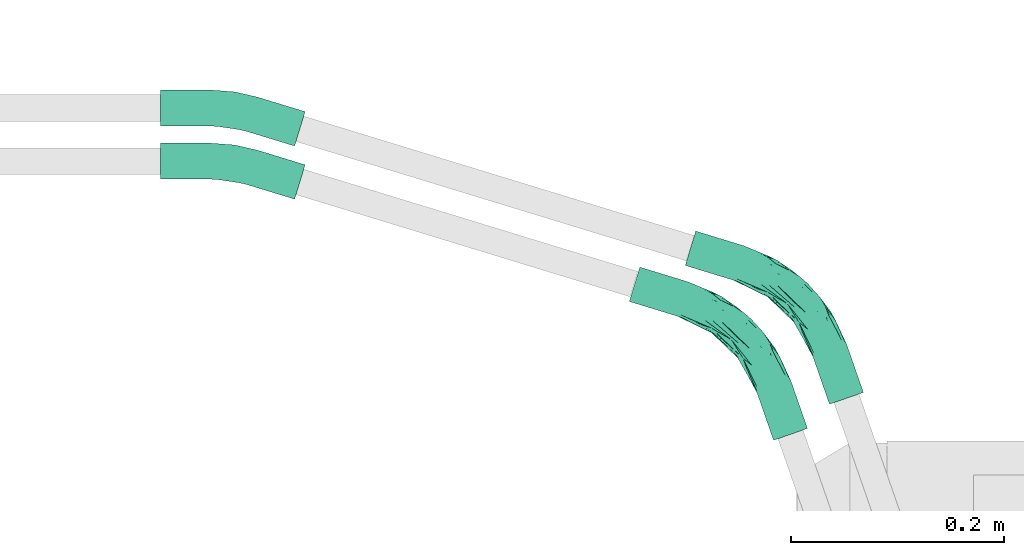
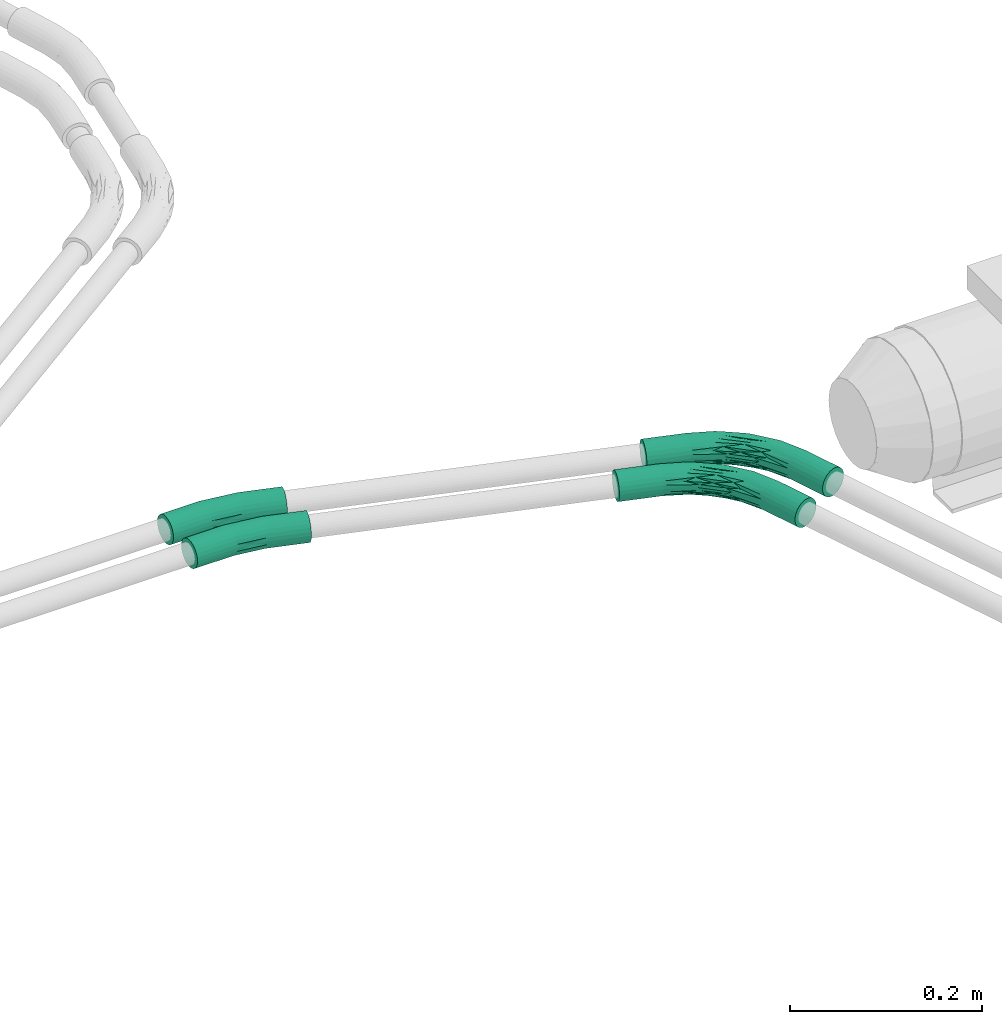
# One storey, part 13 of 22: 4 flow fittings.
"""IFC2X3 building model written with IfcOpenShell, lengths in millimetres."""

from ifc_helpers import new_model, entity, si_unit, converted_unit, derived_unit, direction, frame, origin_with_axes, place, context, subcontext, project, spatial, open_shell, surface_model, source, transform, mapped, type_object, element, save


model = new_model("IFC2X3")

# Units and contexts
model_context = context("Model", 3, precision=0.01, world=frame((0.0, 4.29681676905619e-09, 0.0)), true_north=direction((4.01073788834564e-13, 1.0)))
plan_context = context("Plan", 3, precision=0.01, world=frame((0.0, 4.29681676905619e-09, 0.0)), true_north=direction((4.01073788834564e-13, 1.0)))
body_context = subcontext(model_context, "Body", "Model", "MODEL_VIEW")
ifc_project = project(units=[converted_unit("PLANEANGLEUNIT", "DEGREE", entity("IfcPositiveLengthMeasure", 0.0174532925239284), si_unit("PLANEANGLEUNIT", "RADIAN"), dimensions=[0, 0, 0, 0, 0, 0, 0]), si_unit("AREAUNIT", "SQUARE_METRE"), si_unit("LENGTHUNIT", "METRE", prefix="MILLI"), si_unit("MASSUNIT", "GRAM", prefix="KILO"), si_unit("POWERUNIT", "WATT"), si_unit("PRESSUREUNIT", "PASCAL", prefix="KILO"), si_unit("FORCEUNIT", "NEWTON", prefix="KILO"), si_unit("ELECTRICVOLTAGEUNIT", "VOLT"), si_unit("ELECTRICCURRENTUNIT", "AMPERE"), si_unit("THERMODYNAMICTEMPERATUREUNIT", "DEGREE_CELSIUS"), si_unit("TIMEUNIT", "SECOND"), si_unit("VOLUMEUNIT", "CUBIC_METRE"), derived_unit("LINEARVELOCITYUNIT", [(si_unit("LENGTHUNIT", "METRE"), 1), (si_unit("TIMEUNIT", "SECOND"), -1)]), derived_unit("VOLUMETRICFLOWRATEUNIT", [(si_unit("VOLUMEUNIT", "CUBIC_METRE"), 1), (si_unit("TIMEUNIT", "SECOND"), -1)]), derived_unit("THERMALTRANSMITTANCEUNIT", [(si_unit("POWERUNIT", "WATT"), 1), (si_unit("THERMODYNAMICTEMPERATUREUNIT", "KELVIN"), -1), (si_unit("AREAUNIT", "SQUARE_METRE"), -1)]), derived_unit("SOUNDPRESSUREUNIT", [(si_unit("PRESSUREUNIT", "PASCAL"), 1)])], contexts=[model_context, plan_context])

# Site, building, storey
site_placement = place(None, frame((0.0, -4.29681676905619e-09, 0.0), z_axis=(0.0, 0.0, 1.0), x_axis=(1.0, 0.0, 0.0)))
site = spatial("IfcSite", under=ifc_project, at=site_placement, Name="ENGM", CompositionType="ELEMENT")
building_placement = place(site_placement, frame((0.0, 4.29681676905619e-09, 0.0), z_axis=(0.0, 0.0, 1.0), x_axis=(1.0, 0.0, 0.0)))
building = spatial("IfcBuilding", under=site, at=building_placement, Name="TI", CompositionType="ELEMENT")
storey_placement = place(building_placement, frame((0.0, 0.0, 210900.0), z_axis=(0.0, 0.0, 1.0), x_axis=(1.0, 0.0, 0.0)))
storey = spatial("IfcBuildingStorey", under=building, at=storey_placement, Name="Nivå F", CompositionType="ELEMENT", Elevation=210900.0)

# Flow fittings
cable_carrier_fitting_type = type_object("IfcCableCarrierFittingType", Name="Trekkerør, glatt bend", PredefinedType="BEND")
shared_shape_1 = source(origin_with_axes(), body_context, "Body", "SurfaceModel", [
    surface_model("IfcShellBasedSurfaceModel", [(-67.01386, 8.46055, -14.6541), (-67.01386, 4.3795, -16.34452), (-67.01386, 0.0, -16.92109), (-67.01386, 14.6541, -8.46055), (-67.01386, -8.46055, -14.6541), (-67.01386, 11.96502, -11.96502), (-67.01386, -16.92109, 0.0), (-67.01386, -16.34452, 4.3795), (-67.01386, -11.96502, -11.96502), (-67.01386, -14.6541, -8.46055), (-67.01386, -4.3795, -16.34452), (-67.01386, -16.34452, -4.3795), (-67.01386, 16.92109, 0.0), (-67.01386, 16.34452, -4.3795), (-67.01386, 16.34452, 4.3795), (-67.01386, 14.6541, 8.46055), (-67.01386, 8.46055, 14.6541), (-67.01386, 11.96502, 11.96502), (-67.01386, 0.0, 16.92109), (-67.01386, 4.3795, 16.34452), (-67.01386, -11.96502, 11.96502), (-67.01386, -8.46055, 14.6541), (-67.01386, -14.6541, 8.46055), (-67.01386, -4.3795, 16.34452), (-19.69589, -16.92109, 0.0), (-19.69589, -16.34452, 4.3795), (-19.69589, -14.6541, 8.46055), (-19.69589, -11.96502, 11.96502), (-19.69589, -8.46055, 14.6541), (-19.69589, -4.3795, 16.34452), (-19.69589, 0.0, 16.92109), (-19.69589, 4.3795, 16.34452), (-19.69589, 8.46055, 14.6541), (-19.69589, 11.96502, 11.96502), (-19.69589, 14.6541, 8.46055), (-19.69589, 16.34452, 4.3795), (-19.69589, 16.92109, 0.0), (-19.69589, 16.34452, -4.3795), (-19.69589, 14.6541, -8.46055), (-19.69589, 11.96502, -11.96502), (-19.69589, 8.46055, -14.6541), (-19.69589, 4.3795, -16.34452), (-19.69589, 0.0, -16.92109), (-19.69589, -4.3795, -16.34452), (-19.69589, -8.46055, -14.6541), (-19.69589, -11.96502, -11.96502), (-19.69589, -14.6541, -8.46055), (-19.69589, -16.34452, -4.3795), (22.33351, -5.68368, 11.96502), (21.3089, -2.33234, 14.6541), (20.11572, 1.57038, 16.34452), (18.83527, 5.75852, 16.92109), (17.55483, 9.94666, 16.34452), (23.11972, -8.25526, 8.46055), (14.55083, 19.7723, 8.46055), (15.33704, 17.20073, 11.96502), (-2.71744, 18.18281, 0.0), (14.0566, 21.38887, 4.3795), (16.36165, 13.84938, 14.6541), (2.28475, -15.28765, 0.0), (23.61395, -9.87182, 4.3795), (23.78252, -10.4232, 0.0), (13.88803, 21.94024, 0.0), (20.11572, 1.57038, -16.34452), (18.83527, 5.75852, -16.92109), (14.0566, 21.38887, -4.3795), (16.36165, 13.84938, -14.6541), (17.55483, 9.94666, -16.34452), (15.33704, 17.20073, -11.96502), (23.61395, -9.87182, -4.3795), (22.33351, -5.68368, -11.96502), (23.11972, -8.25526, -8.46055), (21.3089, -2.33234, -14.6541), (14.55083, 19.7723, -8.46055), (62.80523, 23.7811, -16.34452), (67.58391, 8.15075, -11.96502), (64.08567, 19.59296, -16.92109), (59.80123, 33.60674, -8.46055), (61.61205, 27.68382, -14.6541), (60.58744, 31.03516, -11.96502), (68.86435, 3.96261, 4.3795), (69.03292, 3.41123, 0.0), (65.36611, 15.40482, -16.34452), (66.5593, 11.50209, -14.6541), (68.86435, 3.96261, -4.3795), (68.37011, 5.57917, -8.46055), (59.30699, 35.2233, -4.3795), (60.58744, 31.03516, 11.96502), (59.13842, 35.77468, 0.0), (59.30699, 35.2233, 4.3795), (59.80123, 33.60674, 8.46055), (61.61205, 27.68382, 14.6541), (67.58391, 8.15075, 11.96502), (64.08567, 19.59296, 16.92109), (62.80523, 23.7811, 16.34452), (68.37011, 5.57917, 8.46055), (66.5593, 11.50209, 14.6541), (65.36611, 15.40482, 16.34452)], [open_shell([[[0, 1, 2]], [[3, 0, 2]], [[4, 3, 2]], [[5, 0, 3]], [[3, 6, 7]], [[8, 9, 4]], [[2, 10, 4]], [[9, 11, 4]], [[11, 3, 4]], [[3, 11, 6]], [[12, 13, 3]], [[12, 7, 14]], [[14, 7, 15]], [[16, 17, 18]], [[15, 18, 17]], [[18, 19, 16]], [[20, 21, 22]], [[15, 7, 22]], [[23, 18, 21]], [[15, 22, 21]], [[15, 21, 18]], [[3, 7, 12]], [[7, 24, 25]], [[26, 22, 25]], [[21, 27, 28]], [[26, 27, 20]], [[23, 28, 29]], [[24, 7, 6]], [[25, 22, 7]], [[26, 20, 22]], [[27, 21, 20]], [[23, 21, 28]], [[29, 18, 23]], [[29, 30, 18]], [[16, 31, 32]], [[33, 17, 32]], [[14, 34, 35]], [[33, 34, 15]], [[12, 35, 36]], [[31, 19, 30]], [[31, 16, 19]], [[30, 19, 18]], [[32, 17, 16]], [[33, 15, 17]], [[14, 15, 34]], [[35, 12, 14]], [[13, 36, 37]], [[38, 3, 37]], [[0, 39, 40]], [[38, 39, 5]], [[1, 40, 41]], [[36, 13, 12]], [[37, 3, 13]], [[38, 5, 3]], [[39, 0, 5]], [[1, 0, 40]], [[41, 2, 1]], [[41, 42, 2]], [[4, 43, 44]], [[45, 8, 44]], [[11, 46, 47]], [[45, 46, 9]], [[6, 47, 24]], [[43, 10, 42]], [[43, 4, 10]], [[42, 10, 2]], [[44, 8, 4]], [[45, 9, 8]], [[11, 9, 46]], [[47, 6, 11]], [[27, 26, 48]], [[49, 28, 27]], [[50, 29, 28]], [[51, 30, 29]], [[31, 30, 52]], [[25, 53, 26]], [[34, 33, 54]], [[32, 55, 33]], [[56, 35, 57]], [[56, 36, 35]], [[57, 35, 34]], [[58, 32, 31]], [[25, 24, 59]], [[49, 50, 28]], [[27, 48, 49]], [[50, 51, 29]], [[53, 25, 60]], [[26, 53, 48]], [[59, 61, 60]], [[54, 57, 34]], [[62, 56, 57]], [[58, 31, 52]], [[32, 58, 55]], [[54, 33, 55]], [[52, 30, 51]], [[25, 59, 60]], [[43, 42, 63]], [[42, 41, 64]], [[65, 38, 37]], [[39, 66, 40]], [[41, 40, 67]], [[38, 68, 39]], [[59, 24, 47]], [[69, 59, 47]], [[70, 45, 44]], [[47, 46, 69]], [[45, 71, 46]], [[72, 44, 43]], [[37, 36, 56]], [[56, 62, 65]], [[65, 73, 38]], [[66, 39, 68]], [[40, 66, 67]], [[73, 68, 38]], [[67, 64, 41]], [[72, 43, 63]], [[70, 44, 72]], [[46, 71, 69]], [[69, 61, 59]], [[71, 45, 70]], [[64, 63, 42]], [[37, 56, 65]], [[74, 75, 76]], [[77, 74, 78]], [[75, 74, 77]], [[77, 78, 79]], [[80, 81, 77]], [[82, 75, 83]], [[82, 76, 75]], [[75, 84, 85]], [[84, 75, 81]], [[77, 81, 75]], [[77, 86, 80]], [[87, 88, 89]], [[87, 89, 90]], [[88, 91, 92]], [[91, 88, 87]], [[93, 91, 94]], [[80, 92, 95]], [[86, 92, 80]], [[96, 93, 97]], [[93, 96, 92]], [[91, 93, 92]], [[92, 86, 88]], [[60, 81, 80]], [[95, 53, 80]], [[49, 92, 96]], [[95, 92, 48]], [[50, 96, 97]], [[81, 60, 61]], [[80, 53, 60]], [[95, 48, 53]], [[92, 49, 48]], [[50, 49, 96]], [[97, 51, 50]], [[97, 93, 51]], [[58, 94, 91]], [[87, 55, 91]], [[57, 90, 89]], [[87, 90, 54]], [[62, 89, 88]], [[94, 52, 93]], [[94, 58, 52]], [[93, 52, 51]], [[91, 55, 58]], [[87, 54, 55]], [[57, 54, 90]], [[89, 62, 57]], [[62, 88, 86]], [[77, 65, 86]], [[78, 74, 67]], [[79, 78, 68]], [[73, 77, 79]], [[77, 73, 65]], [[65, 62, 86]], [[68, 78, 66]], [[66, 78, 67]], [[74, 64, 67]], [[68, 73, 79]], [[74, 76, 64]], [[72, 82, 83]], [[75, 70, 83]], [[69, 85, 84]], [[75, 85, 71]], [[61, 84, 81]], [[82, 63, 76]], [[82, 72, 63]], [[76, 63, 64]], [[83, 70, 72]], [[75, 71, 70]], [[69, 71, 85]], [[84, 61, 69]]])]),
])
for number, where, z_axis, x_axis, name in (
    (1, (600693.97096, 571094.62419, -56.7999999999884), (0.0, 0.0, 1.0), (-0.956304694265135, 0.292371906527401, 0.0), "Trekkerør, glatt bend"),
    (2, (600693.97096, 571044.62419, -56.7999999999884), (0.0, 0.0, 1.0), (-0.956304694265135, 0.292371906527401, 0.0), "Trekkerør, glatt bend"),
):
    element("IfcFlowFitting", number, at=place(storey_placement, frame(where, z_axis=z_axis, x_axis=x_axis)), inside=storey, type_object=cable_carrier_fitting_type, Name=name, context=body_context, shape_type="MappedRepresentation", body=[
        mapped(shared_shape_1, transform((0.0, 0.0, 0.0), scale=1.0)),
    ])
shared_shape_2 = source(origin_with_axes(), body_context, "Body", "SurfaceModel", [
    surface_model("IfcShellBasedSurfaceModel", [(-114.18104, 8.46055, -14.6541), (-114.18104, 4.3795, -16.34452), (-114.18104, 0.0, -16.92109), (-114.18104, -4.3795, -16.34452), (-114.18104, -8.46055, -14.6541), (-114.18104, -14.6541, -8.46055), (-114.18104, 16.92109, 0.0), (-114.18104, -11.96502, -11.96502), (-114.18104, -11.96502, 11.96502), (-114.18104, 14.6541, -8.46055), (-114.18104, 11.96502, -11.96502), (-114.18104, 16.34452, -4.3795), (-114.18104, -16.34452, -4.3795), (-114.18104, -16.92109, 0.0), (-114.18104, -16.34452, 4.3795), (-114.18104, -14.6541, 8.46055), (-114.18104, 0.0, 16.92109), (-114.18104, -8.46055, 14.6541), (-114.18104, -4.3795, 16.34452), (-114.18104, 14.6541, 8.46055), (-114.18104, 8.46055, 14.6541), (-114.18104, 11.96502, 11.96502), (-114.18104, 16.34452, 4.3795), (-114.18104, 4.3795, 16.34452), (-66.86307, 16.34452, 4.3795), (-66.86307, 16.92109, 0.0), (-66.86307, 14.6541, 8.46055), (-66.86307, 8.46055, 14.6541), (-66.86307, 11.96502, 11.96502), (-66.86307, 4.3795, 16.34452), (-66.86307, 0.0, 16.92109), (-66.86307, -8.46055, 14.6541), (-66.86307, -4.3795, 16.34452), (-66.86307, -11.96502, 11.96502), (-66.86307, -16.34452, 4.3795), (-66.86307, -14.6541, 8.46055), (-66.86307, -16.92109, 0.0), (-66.86307, -16.34452, -4.3795), (-66.86307, -14.6541, -8.46055), (-66.86307, -8.46055, -14.6541), (-66.86307, -11.96502, -11.96502), (-66.86307, -4.3795, -16.34452), (-66.86307, 0.0, -16.92109), (-66.86307, 8.46055, -14.6541), (-66.86307, 4.3795, -16.34452), (-66.86307, 11.96502, -11.96502), (-66.86307, 16.34452, -4.3795), (-66.86307, 14.6541, -8.46055), (-32.27242, 12.84216, 0.0), (-35.42196, 13.15403, 3.63992), (-7.95797, 4.42749, 3.1862), (21.78288, -31.11607, 16.75716), (39.48772, -53.9573, 16.92109), (43.0219, -51.37087, 16.34452), (-28.2681, 1.16114, 15.55965), (-32.48914, 9.40106, 10.16826), (-36.24238, 7.08238, 13.33358), (-43.40125, 13.61824, 6.79025), (-33.3333, -18.16273, 10.43706), (-4.61214, -9.09061, 15.89686), (-37.97456, -0.798, 16.75716), (13.72034, -40.73345, 13.50422), (29.83216, -61.02355, 11.96502), (32.66021, -58.95389, 14.6541), (11.07823, -28.03505, 16.79998), (-29.16631, -7.61689, 16.79998), (-9.40332, -18.53411, 16.22846), (-36.81854, -9.98559, 15.69055), (15.53221, -8.29758, 2.92209), (29.42271, -18.45899, 0.0), (0.42066, 0.82913, 0.0), (-40.97407, -12.98412, 13.50422), (28.60105, -22.24115, 10.17752), (49.14327, -46.89105, 11.96502), (51.31331, -45.30294, 8.46055), (-43.67359, -17.90107, 6.63933), (-16.70811, -26.90629, 6.71647), (35.95354, -56.54373, 16.34452), (13.68595, -35.60915, 15.69055), (-29.39279, -22.78636, 3.63614), (27.26363, -25.19258, 13.33415), (-4.16877, -35.06109, 3.66136), (27.66212, -62.61165, 8.46055), (9.20666, -43.94014, 6.59732), (26.29798, -63.60998, 4.3795), (17.63148, -22.12611, 15.55965), (46.31523, -48.9607, 14.6541), (22.76936, -14.64862, 6.28703), (36.27692, -25.07799, 3.1792), (52.67745, -44.30462, 4.3795), (2.86445, -3.39946, 9.02542), (53.14274, -43.96411, 0.0), (-2.4602, -4.84909, 13.22646), (-11.7917, -23.24165, 13.59813), (3.5245, -36.48876, 10.44458), (0.44002, -38.70356, 0.0), (25.8327, -63.95049, 0.0), (-31.49295, -22.5023, 0.0), (-6.09794, -12.01915, 16.73333), (-17.17436, 7.10447, 6.24887), (-4.44654, -24.36305, 15.14505), (-31.04354, -11.52814, -15.70174), (-16.70811, -26.90629, -6.71647), (3.5245, -36.48876, -10.44458), (9.20666, -43.94014, -6.59732), (29.00466, -22.59625, -10.17958), (-1.07229, -2.11351, -10.03898), (15.35976, -8.89418, -5.28368), (-40.97407, -12.98412, -13.50422), (-29.39279, -22.78636, -3.63614), (29.83216, -61.02355, -11.96502), (27.66212, -62.61165, -8.46055), (-4.16877, -35.06109, -3.66136), (-27.48572, 4.89323, -13.30679), (-33.3333, -18.16273, -10.43706), (-43.67359, -17.90107, -6.63933), (-11.7917, -23.24165, -13.59813), (-39.02557, -5.09311, -16.79389), (-35.36422, 10.06144, -10.17958), (-26.5563, 10.09311, -6.29304), (-41.67473, 14.46692, -3.17756), (36.78908, -26.89793, -6.37043), (51.31331, -45.30294, -8.46055), (-36.95798, 3.34037, -15.57665), (-8.09915, -15.96357, -16.81304), (9.03056, -31.85982, -15.70174), (-29.17558, -3.00766, -16.75093), (35.95354, -56.54373, -16.34452), (32.66021, -58.95389, -14.6541), (18.93752, -34.5008, -16.79389), (26.29798, -63.60998, -4.3795), (14.80326, -25.32043, -16.75093), (43.0219, -51.37087, -16.34452), (39.48772, -53.9573, -16.92109), (49.14327, -46.89105, -11.96502), (46.31523, -48.9607, -14.6541), (20.18115, -19.29066, -13.30679), (13.72034, -40.73345, -13.50422), (24.52211, -27.85168, -15.57665), (-4.17447, -8.22795, -15.50993), (-6.60087, -13.01042, -16.86289), (-2.8082, -5.53501, -13.80517), (52.67745, -44.30462, -4.3795), (-15.87372, 7.6289, -2.95781), (36.50825, -25.29169, -3.14006), (60.60506, -97.13865, -14.6541), (63.89839, -94.72848, -16.34452), (67.43257, -92.14205, -16.92109), (57.77701, -99.20831, -11.96502), (81.08759, -82.14886, 0.0), (55.60698, -100.79641, -8.46055), (60.60506, -97.13865, 14.6541), (77.08813, -85.0758, -11.96502), (79.25816, -83.48769, -8.46055), (74.26008, -87.14545, -14.6541), (70.96675, -89.55563, -16.34452), (80.6223, -82.48937, -4.3795), (53.77755, -102.13524, 0.0), (54.24283, -101.79473, -4.3795), (55.60698, -100.79641, 8.46055), (54.24283, -101.79473, 4.3795), (57.77701, -99.20831, 11.96502), (79.25816, -83.48769, 8.46055), (63.89839, -94.72848, 16.34452), (77.08813, -85.0758, 11.96502), (74.26008, -87.14545, 14.6541), (80.6223, -82.48937, 4.3795), (70.96675, -89.55563, 16.34452), (67.43257, -92.14205, 16.92109)], [open_shell([[[0, 1, 2]], [[2, 3, 4]], [[2, 4, 5]], [[2, 5, 6]], [[5, 4, 7]], [[8, 6, 5]], [[0, 9, 10]], [[0, 11, 9]], [[0, 2, 11]], [[6, 11, 2]], [[5, 12, 8]], [[13, 14, 15]], [[13, 15, 8]], [[16, 6, 17]], [[6, 8, 17]], [[16, 17, 18]], [[19, 20, 21]], [[19, 22, 6]], [[20, 16, 23]], [[20, 19, 6]], [[20, 6, 16]], [[12, 13, 8]], [[24, 25, 22]], [[24, 19, 26]], [[27, 28, 20]], [[21, 28, 26]], [[29, 27, 23]], [[6, 22, 25]], [[22, 19, 24]], [[19, 21, 26]], [[21, 20, 28]], [[27, 20, 23]], [[23, 16, 29]], [[16, 30, 29]], [[31, 32, 17]], [[31, 8, 33]], [[34, 35, 14]], [[15, 35, 33]], [[36, 34, 13]], [[30, 18, 32]], [[18, 17, 32]], [[16, 18, 30]], [[17, 8, 31]], [[8, 15, 33]], [[35, 15, 14]], [[14, 13, 34]], [[37, 36, 12]], [[37, 5, 38]], [[39, 40, 4]], [[7, 40, 38]], [[41, 39, 3]], [[13, 12, 36]], [[12, 5, 37]], [[5, 7, 38]], [[7, 4, 40]], [[39, 4, 3]], [[3, 2, 41]], [[2, 42, 41]], [[43, 44, 0]], [[43, 10, 45]], [[46, 47, 11]], [[9, 47, 45]], [[25, 46, 6]], [[42, 1, 44]], [[1, 0, 44]], [[2, 1, 42]], [[0, 10, 43]], [[10, 9, 45]], [[47, 9, 11]], [[11, 6, 46]], [[48, 49, 50]], [[48, 25, 49]], [[51, 52, 53]], [[54, 27, 29]], [[55, 28, 56]], [[57, 49, 24]], [[58, 33, 35]], [[59, 54, 60]], [[29, 30, 60]], [[61, 62, 63]], [[64, 65, 66]], [[65, 32, 67]], [[68, 69, 70]], [[71, 31, 33]], [[72, 73, 74]], [[75, 76, 58]], [[30, 32, 65]], [[28, 55, 26]], [[63, 77, 78]], [[75, 79, 76]], [[73, 72, 80]], [[79, 34, 36]], [[76, 79, 81]], [[67, 32, 31]], [[30, 65, 60]], [[68, 70, 50]], [[50, 70, 48]], [[82, 83, 84]], [[51, 53, 85]], [[63, 78, 61]], [[33, 58, 71]], [[53, 86, 85]], [[68, 87, 88]], [[77, 52, 64]], [[86, 73, 80]], [[89, 87, 74]], [[72, 87, 90]], [[74, 87, 72]], [[27, 56, 28]], [[88, 89, 91]], [[55, 92, 90]], [[93, 58, 94]], [[27, 54, 56]], [[83, 76, 81]], [[55, 57, 26]], [[84, 95, 96]], [[66, 78, 64]], [[79, 97, 81]], [[82, 94, 83]], [[94, 82, 62]], [[60, 98, 59]], [[93, 94, 61]], [[92, 85, 80]], [[64, 78, 77]], [[51, 98, 64]], [[85, 92, 59]], [[76, 94, 58]], [[90, 87, 99]], [[100, 66, 67]], [[65, 64, 98]], [[93, 67, 71]], [[56, 92, 55]], [[92, 56, 54]], [[86, 80, 85]], [[80, 72, 92]], [[29, 60, 54]], [[98, 60, 65]], [[52, 51, 64]], [[59, 98, 51]], [[95, 84, 81]], [[76, 83, 94]], [[31, 71, 67]], [[93, 71, 58]], [[62, 61, 94]], [[100, 93, 61]], [[72, 90, 92]], [[90, 99, 55]], [[83, 81, 84]], [[95, 81, 97]], [[97, 79, 36]], [[35, 34, 75]], [[79, 75, 34]], [[35, 75, 58]], [[78, 66, 100]], [[66, 65, 67]], [[69, 68, 88]], [[99, 87, 50]], [[69, 88, 91]], [[89, 88, 87]], [[68, 50, 87]], [[49, 99, 50]], [[99, 49, 57]], [[24, 49, 25]], [[99, 57, 55]], [[26, 57, 24]], [[54, 59, 92]], [[85, 59, 51]], [[78, 100, 61]], [[93, 100, 67]], [[39, 41, 101]], [[102, 103, 104]], [[105, 106, 107]], [[39, 108, 40]], [[36, 109, 97]], [[110, 111, 103]], [[109, 112, 97]], [[113, 43, 45]], [[38, 40, 114]], [[38, 114, 115]], [[116, 103, 114]], [[117, 41, 42]], [[118, 47, 119]], [[102, 114, 103]], [[120, 46, 25]], [[121, 122, 105]], [[47, 46, 119]], [[116, 114, 108]], [[44, 43, 123]], [[124, 125, 101]], [[45, 118, 113]], [[113, 123, 43]], [[126, 42, 44]], [[116, 101, 125]], [[124, 101, 117]], [[125, 127, 128]], [[112, 95, 97]], [[127, 125, 129]], [[130, 96, 95]], [[131, 132, 133]], [[130, 104, 111]], [[134, 135, 136]], [[39, 101, 108]], [[137, 110, 103]], [[137, 116, 125]], [[104, 130, 112]], [[129, 133, 127]], [[132, 131, 138]], [[126, 139, 140]], [[110, 137, 128]], [[129, 124, 140]], [[129, 140, 131]], [[136, 138, 139]], [[139, 141, 136]], [[122, 121, 142]], [[48, 70, 143]], [[105, 134, 136]], [[138, 135, 132]], [[107, 70, 69]], [[122, 134, 105]], [[91, 144, 69]], [[119, 107, 106]], [[143, 70, 107]], [[143, 119, 120]], [[113, 106, 141]], [[42, 126, 117]], [[47, 118, 45]], [[109, 37, 115]], [[139, 126, 123]], [[144, 121, 107]], [[105, 136, 106]], [[118, 106, 113]], [[106, 118, 119]], [[44, 123, 126]], [[139, 123, 113]], [[135, 138, 136]], [[139, 138, 131]], [[41, 117, 101]], [[140, 124, 117]], [[133, 129, 131]], [[124, 129, 125]], [[111, 104, 103]], [[102, 104, 112]], [[40, 108, 114]], [[116, 108, 101]], [[128, 137, 125]], [[116, 137, 103]], [[109, 102, 112]], [[95, 112, 130]], [[102, 109, 115]], [[37, 109, 36]], [[102, 115, 114]], [[38, 115, 37]], [[142, 121, 144]], [[107, 121, 105]], [[142, 144, 91]], [[69, 144, 107]], [[48, 143, 120]], [[119, 143, 107]], [[48, 120, 25]], [[46, 120, 119]], [[136, 141, 106]], [[141, 139, 113]], [[131, 140, 139]], [[126, 140, 117]], [[145, 146, 147]], [[148, 145, 147]], [[149, 150, 147]], [[148, 147, 150]], [[150, 149, 151]], [[152, 153, 154]], [[147, 155, 154]], [[156, 149, 153]], [[154, 153, 149]], [[154, 149, 147]], [[157, 158, 150]], [[159, 160, 157]], [[161, 159, 157]], [[149, 162, 151]], [[161, 157, 151]], [[163, 151, 162]], [[164, 165, 162]], [[162, 149, 166]], [[165, 167, 162]], [[168, 162, 167]], [[162, 168, 163]], [[151, 157, 150]], [[166, 149, 89]], [[166, 74, 162]], [[165, 164, 86]], [[73, 164, 162]], [[167, 165, 53]], [[91, 89, 149]], [[89, 74, 166]], [[74, 73, 162]], [[73, 86, 164]], [[165, 86, 53]], [[53, 52, 167]], [[52, 168, 167]], [[151, 163, 63]], [[151, 62, 161]], [[160, 159, 84]], [[82, 159, 161]], [[157, 160, 96]], [[168, 77, 163]], [[77, 63, 163]], [[52, 77, 168]], [[63, 62, 151]], [[62, 82, 161]], [[159, 82, 84]], [[84, 96, 160]], [[158, 157, 96]], [[158, 130, 150]], [[127, 146, 145]], [[110, 145, 148]], [[148, 150, 111]], [[130, 111, 150]], [[158, 96, 130]], [[128, 145, 110]], [[127, 145, 128]], [[127, 133, 146]], [[148, 111, 110]], [[133, 147, 146]], [[154, 155, 135]], [[154, 134, 152]], [[156, 153, 142]], [[122, 153, 152]], [[149, 156, 91]], [[147, 132, 155]], [[132, 135, 155]], [[133, 132, 147]], [[135, 134, 154]], [[134, 122, 152]], [[153, 122, 142]], [[142, 91, 156]]])]),
])
for number, where, z_axis, x_axis, name in (
    (3, (601234.80049, 570929.27601, -56.7999999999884), (0.0, 0.0, 1.0), (0.956304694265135, -0.292371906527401, 0.0), "Trekkerør, glatt bend"),
    (4, (601182.16154, 570895.36935, -56.7999999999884), (0.0, 0.0, 1.0), (0.956304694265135, -0.292371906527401, 0.0), "Trekkerør, glatt bend"),
):
    element("IfcFlowFitting", number, at=place(storey_placement, frame(where, z_axis=z_axis, x_axis=x_axis)), inside=storey, type_object=cable_carrier_fitting_type, Name=name, context=body_context, shape_type="MappedRepresentation", body=[
        mapped(shared_shape_2, transform((0.0, 0.0, 0.0), scale=1.0)),
    ])

save(model, "model.ifc")
